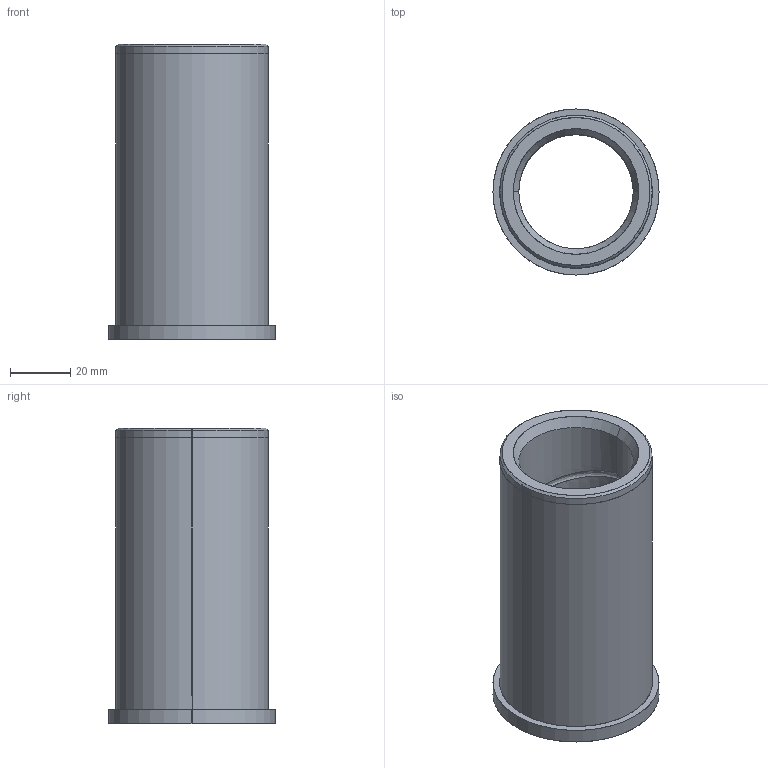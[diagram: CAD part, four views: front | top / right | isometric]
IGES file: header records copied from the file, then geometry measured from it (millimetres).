
Start section: SolidWorks IGES file using analytic representation for surfaces
Global section: file name: D:\Current\W2\SBF 12-37.igs; native system: SolidWorks 2017; preprocessor: SolidWorks 2017; author: Ravi Kalvai; date: 230530.114856; units: inch
Bounding box: 55.3 x 55.3 x 98.42 mm (x, y, z)
Surface area: 29917.8 mm2 (no closed solid volume)
Topology: 0 solids, 0 shells, 32 faces, 1300 edges, 1300 vertices
Faces by surface type: revolution 20, bspline 12
